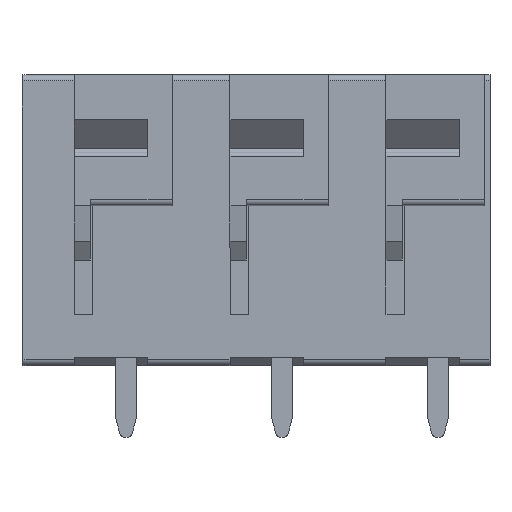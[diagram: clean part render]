
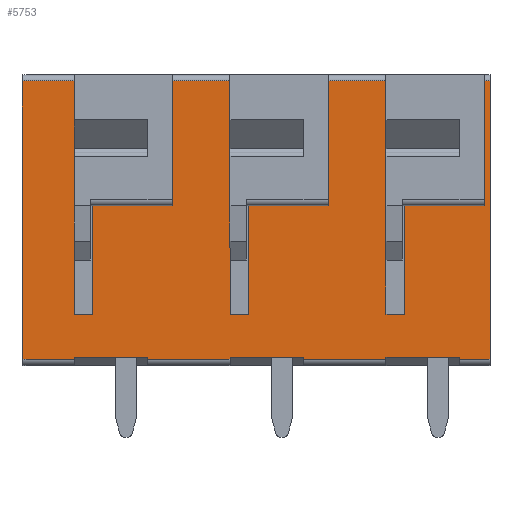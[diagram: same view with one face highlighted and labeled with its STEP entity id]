
A CAD part, left-side view. The second image highlights one B-rep face of the part: STEP entity #5753.
In plain terms, the highlighted planar face has unit normal (-1, 0, 0).
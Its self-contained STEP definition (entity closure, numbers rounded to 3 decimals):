
#62=DIRECTION('',(0.,0.,-1.));
#63=VECTOR('',#62,8.5);
#64=CARTESIAN_POINT('',(0.,-15.94,-3.3));
#65=LINE('',#64,#63);
#100=DIRECTION('',(0.,0.,1.));
#101=VECTOR('',#100,0.1);
#102=CARTESIAN_POINT('',(0.,-15.04,-14.));
#103=LINE('',#102,#101);
#112=DIRECTION('',(0.,0.,1.));
#113=VECTOR('',#112,2.869);
#114=CARTESIAN_POINT('',(0.,-15.04,-11.8));
#115=LINE('',#114,#113);
#294=DIRECTION('',(0.,-1.,0.));
#295=VECTOR('',#294,3.6);
#296=CARTESIAN_POINT('',(0.,-15.04,-13.9));
#297=LINE('',#296,#295);
#302=DIRECTION('',(0.,0.,-1.));
#303=VECTOR('',#302,13.6);
#304=CARTESIAN_POINT('',(0.,-20.12,-0.4));
#305=LINE('',#304,#303);
#306=DIRECTION('',(0.,0.,1.));
#307=VECTOR('',#306,0.1);
#308=CARTESIAN_POINT('',(0.,-18.64,-14.));
#309=LINE('',#308,#307);
#310=DIRECTION('',(0.,0.,1.));
#311=VECTOR('',#310,0.1);
#312=CARTESIAN_POINT('',(0.,-11.02,-14.));
#313=LINE('',#312,#311);
#314=DIRECTION('',(0.,0.,1.));
#315=VECTOR('',#314,0.1);
#316=CARTESIAN_POINT('',(0.,-3.4,-14.));
#317=LINE('',#316,#315);
#318=DIRECTION('',(0.,0.,-1.));
#319=VECTOR('',#318,0.1);
#320=CARTESIAN_POINT('',(0.,0.2,-13.9));
#321=LINE('',#320,#319);
#322=DIRECTION('',(0.,0.,1.));
#323=VECTOR('',#322,13.6);
#324=CARTESIAN_POINT('',(0.,2.74,-14.));
#325=LINE('',#324,#323);
#326=DIRECTION('',(0.,0.,-1.));
#327=VECTOR('',#326,2.869);
#328=CARTESIAN_POINT('',(0.,0.2,-8.931));
#329=LINE('',#328,#327);
#330=DIRECTION('',(0.,0.,-1.));
#331=VECTOR('',#330,0.1);
#332=CARTESIAN_POINT('',(0.,0.2,-3.3));
#333=LINE('',#332,#331);
#334=DIRECTION('',(0.,0.,-1.));
#335=VECTOR('',#334,5.531);
#336=CARTESIAN_POINT('',(0.,-7.42,-3.4));
#337=LINE('',#336,#335);
#338=DIRECTION('',(0.,0.,-1.));
#339=VECTOR('',#338,5.531);
#340=CARTESIAN_POINT('',(0.,-15.04,-3.4));
#341=LINE('',#340,#339);
#346=DIRECTION('',(0.,1.,0.));
#347=VECTOR('',#346,22.86);
#348=CARTESIAN_POINT('',(0.,-20.12,-0.4));
#349=LINE('',#348,#347);
#580=DIRECTION('',(0.,-1.,0.));
#581=VECTOR('',#580,1.48);
#582=CARTESIAN_POINT('',(0.,-18.64,-14.));
#583=LINE('',#582,#581);
#1391=DIRECTION('',(0.,-1.,0.));
#1392=VECTOR('',#1391,3.6);
#1393=CARTESIAN_POINT('',(0.,0.2,-13.9));
#1394=LINE('',#1393,#1392);
#1399=DIRECTION('',(0.,-1.,0.));
#1400=VECTOR('',#1399,4.02);
#1401=CARTESIAN_POINT('',(0.,-3.4,-14.));
#1402=LINE('',#1401,#1400);
#1432=DIRECTION('',(0.,0.,1.));
#1433=VECTOR('',#1432,0.1);
#1434=CARTESIAN_POINT('',(0.,-7.42,-14.));
#1435=LINE('',#1434,#1433);
#1444=DIRECTION('',(0.,0.,1.));
#1445=VECTOR('',#1444,2.869);
#1446=CARTESIAN_POINT('',(0.,-7.42,-11.8));
#1447=LINE('',#1446,#1445);
#1493=DIRECTION('',(0.,-1.,0.));
#1494=VECTOR('',#1493,3.6);
#1495=CARTESIAN_POINT('',(0.,-7.42,-13.9));
#1496=LINE('',#1495,#1494);
#1501=DIRECTION('',(0.,-1.,0.));
#1502=VECTOR('',#1501,4.02);
#1503=CARTESIAN_POINT('',(0.,-11.02,-14.));
#1504=LINE('',#1503,#1502);
#1533=DIRECTION('',(0.,1.,0.));
#1534=VECTOR('',#1533,0.9);
#1535=CARTESIAN_POINT('',(0.,-8.32,-11.8));
#1536=LINE('',#1535,#1534);
#1545=DIRECTION('',(0.,0.,-1.));
#1546=VECTOR('',#1545,8.5);
#1547=CARTESIAN_POINT('',(0.,-8.32,-3.3));
#1548=LINE('',#1547,#1546);
#1574=DIRECTION('',(0.,-1.,0.));
#1575=VECTOR('',#1574,0.9);
#1576=CARTESIAN_POINT('',(0.,-7.42,-3.3));
#1577=LINE('',#1576,#1575);
#1691=DIRECTION('',(0.,0.,1.));
#1692=VECTOR('',#1691,0.1);
#1693=CARTESIAN_POINT('',(0.,-7.42,-3.4));
#1694=LINE('',#1693,#1692);
#1998=DIRECTION('',(0.,-1.,0.));
#1999=VECTOR('',#1998,2.54);
#2000=CARTESIAN_POINT('',(0.,2.74,-14.));
#2001=LINE('',#2000,#1999);
#2014=DIRECTION('',(0.,1.,0.));
#2015=VECTOR('',#2014,0.9);
#2016=CARTESIAN_POINT('',(0.,-0.7,-11.8));
#2017=LINE('',#2016,#2015);
#2022=DIRECTION('',(0.,0.,-1.));
#2023=VECTOR('',#2022,8.5);
#2024=CARTESIAN_POINT('',(0.,-0.7,-3.3));
#2025=LINE('',#2024,#2023);
#2051=DIRECTION('',(0.,-1.,0.));
#2052=VECTOR('',#2051,0.9);
#2053=CARTESIAN_POINT('',(0.,0.2,-3.3));
#2054=LINE('',#2053,#2052);
#2109=DIRECTION('',(0.,0.,1.));
#2110=VECTOR('',#2109,5.531);
#2111=CARTESIAN_POINT('',(0.,0.2,-8.931));
#2112=LINE('',#2111,#2110);
#2805=DIRECTION('',(0.,1.,0.));
#2806=VECTOR('',#2805,0.9);
#2807=CARTESIAN_POINT('',(0.,-15.94,-11.8));
#2808=LINE('',#2807,#2806);
#2829=DIRECTION('',(0.,-1.,0.));
#2830=VECTOR('',#2829,0.9);
#2831=CARTESIAN_POINT('',(0.,-15.04,-3.3));
#2832=LINE('',#2831,#2830);
#2946=DIRECTION('',(0.,0.,1.));
#2947=VECTOR('',#2946,0.1);
#2948=CARTESIAN_POINT('',(0.,-15.04,-3.4));
#2949=LINE('',#2948,#2947);
#3870=CARTESIAN_POINT('',(0.,-20.12,-14.));
#3871=VERTEX_POINT('',#3870);
#3872=CARTESIAN_POINT('',(0.,-20.12,-0.4));
#3873=VERTEX_POINT('',#3872);
#4024=CARTESIAN_POINT('',(0.,-15.04,-13.9));
#4026=VERTEX_POINT('',#4024);
#4028=CARTESIAN_POINT('',(0.,-15.04,-11.8));
#4029=CARTESIAN_POINT('',(0.,-15.04,-8.931));
#4030=VERTEX_POINT('',#4028);
#4031=VERTEX_POINT('',#4029);
#4036=CARTESIAN_POINT('',(0.,-15.04,-14.));
#4037=VERTEX_POINT('',#4036);
#4047=CARTESIAN_POINT('',(0.,-15.04,-3.3));
#4049=VERTEX_POINT('',#4047);
#4052=CARTESIAN_POINT('',(0.,-15.04,-3.4));
#4053=VERTEX_POINT('',#4052);
#4112=CARTESIAN_POINT('',(0.,-15.94,-3.3));
#4113=CARTESIAN_POINT('',(0.,-15.94,-11.8));
#4114=VERTEX_POINT('',#4112);
#4115=VERTEX_POINT('',#4113);
#4172=CARTESIAN_POINT('',(0.,2.74,-0.4));
#4173=VERTEX_POINT('',#4172);
#4174=CARTESIAN_POINT('',(0.,-18.64,-14.));
#4175=VERTEX_POINT('',#4174);
#4176=CARTESIAN_POINT('',(0.,-18.64,-13.9));
#4177=VERTEX_POINT('',#4176);
#4178=CARTESIAN_POINT('',(0.,-11.02,-14.));
#4179=VERTEX_POINT('',#4178);
#4180=CARTESIAN_POINT('',(0.,-11.02,-13.9));
#4181=VERTEX_POINT('',#4180);
#4182=CARTESIAN_POINT('',(0.,-7.42,-13.9));
#4183=VERTEX_POINT('',#4182);
#4184=CARTESIAN_POINT('',(0.,-7.42,-14.));
#4185=VERTEX_POINT('',#4184);
#4186=CARTESIAN_POINT('',(0.,-3.4,-14.));
#4187=VERTEX_POINT('',#4186);
#4188=CARTESIAN_POINT('',(0.,-3.4,-13.9));
#4189=VERTEX_POINT('',#4188);
#4190=CARTESIAN_POINT('',(0.,0.2,-13.9));
#4191=VERTEX_POINT('',#4190);
#4192=CARTESIAN_POINT('',(0.,0.2,-14.));
#4193=VERTEX_POINT('',#4192);
#4194=CARTESIAN_POINT('',(0.,2.74,-14.));
#4195=VERTEX_POINT('',#4194);
#4196=CARTESIAN_POINT('',(0.,0.2,-8.931));
#4197=CARTESIAN_POINT('',(0.,0.2,-11.8));
#4198=VERTEX_POINT('',#4196);
#4199=VERTEX_POINT('',#4197);
#4200=CARTESIAN_POINT('',(0.,-0.7,-11.8));
#4201=VERTEX_POINT('',#4200);
#4202=CARTESIAN_POINT('',(0.,-0.7,-3.3));
#4203=VERTEX_POINT('',#4202);
#4204=CARTESIAN_POINT('',(0.,0.2,-3.3));
#4205=VERTEX_POINT('',#4204);
#4206=CARTESIAN_POINT('',(0.,0.2,-3.4));
#4207=VERTEX_POINT('',#4206);
#4208=CARTESIAN_POINT('',(0.,-7.42,-11.8));
#4209=CARTESIAN_POINT('',(0.,-7.42,-8.931));
#4210=VERTEX_POINT('',#4208);
#4211=VERTEX_POINT('',#4209);
#4212=CARTESIAN_POINT('',(0.,-8.32,-11.8));
#4213=VERTEX_POINT('',#4212);
#4214=CARTESIAN_POINT('',(0.,-8.32,-3.3));
#4215=VERTEX_POINT('',#4214);
#4216=CARTESIAN_POINT('',(0.,-7.42,-3.3));
#4217=VERTEX_POINT('',#4216);
#4218=CARTESIAN_POINT('',(0.,-7.42,-3.4));
#4219=VERTEX_POINT('',#4218);
#5677=CARTESIAN_POINT('',(0.,0.2,-14.3));
#5678=DIRECTION('',(-1.,0.,0.));
#5679=DIRECTION('',(0.,0.,1.));
#5680=AXIS2_PLACEMENT_3D('',#5677,#5678,#5679);
#5681=PLANE('',#5680);
#5683=ORIENTED_EDGE('',*,*,#5682,.F.);
#5685=ORIENTED_EDGE('',*,*,#5684,.T.);
#5687=ORIENTED_EDGE('',*,*,#5686,.F.);
#5688=ORIENTED_EDGE('',*,*,#5640,.T.);
#5689=ORIENTED_EDGE('',*,*,#5670,.F.);
#5690=ORIENTED_EDGE('',*,*,#5242,.F.);
#5692=ORIENTED_EDGE('',*,*,#5691,.F.);
#5694=ORIENTED_EDGE('',*,*,#5693,.T.);
#5696=ORIENTED_EDGE('',*,*,#5695,.F.);
#5698=ORIENTED_EDGE('',*,*,#5697,.F.);
#5700=ORIENTED_EDGE('',*,*,#5699,.F.);
#5702=ORIENTED_EDGE('',*,*,#5701,.T.);
#5704=ORIENTED_EDGE('',*,*,#5703,.F.);
#5706=ORIENTED_EDGE('',*,*,#5705,.T.);
#5708=ORIENTED_EDGE('',*,*,#5707,.F.);
#5710=ORIENTED_EDGE('',*,*,#5709,.T.);
#5711=EDGE_LOOP('',(#5683,#5685,#5687,#5688,#5689,#5690,#5692,#5694,#5696,#5698,
#5700,#5702,#5704,#5706,#5708,#5710));
#5712=FACE_OUTER_BOUND('',#5711,.F.);
#5714=ORIENTED_EDGE('',*,*,#5713,.T.);
#5716=ORIENTED_EDGE('',*,*,#5715,.F.);
#5718=ORIENTED_EDGE('',*,*,#5717,.F.);
#5720=ORIENTED_EDGE('',*,*,#5719,.F.);
#5722=ORIENTED_EDGE('',*,*,#5721,.T.);
#5724=ORIENTED_EDGE('',*,*,#5723,.F.);
#5725=EDGE_LOOP('',(#5714,#5716,#5718,#5720,#5722,#5724));
#5726=FACE_BOUND('',#5725,.F.);
#5728=ORIENTED_EDGE('',*,*,#5727,.F.);
#5730=ORIENTED_EDGE('',*,*,#5729,.F.);
#5732=ORIENTED_EDGE('',*,*,#5731,.F.);
#5734=ORIENTED_EDGE('',*,*,#5733,.F.);
#5736=ORIENTED_EDGE('',*,*,#5735,.F.);
#5738=ORIENTED_EDGE('',*,*,#5737,.T.);
#5739=EDGE_LOOP('',(#5728,#5730,#5732,#5734,#5736,#5738));
#5740=FACE_BOUND('',#5739,.F.);
#5741=ORIENTED_EDGE('',*,*,#5259,.F.);
#5743=ORIENTED_EDGE('',*,*,#5742,.F.);
#5744=ORIENTED_EDGE('',*,*,#5142,.F.);
#5746=ORIENTED_EDGE('',*,*,#5745,.F.);
#5748=ORIENTED_EDGE('',*,*,#5747,.F.);
#5750=ORIENTED_EDGE('',*,*,#5749,.T.);
#5751=EDGE_LOOP('',(#5741,#5743,#5744,#5746,#5748,#5750));
#5752=FACE_BOUND('',#5751,.F.);
#5753=ADVANCED_FACE('',(#5712,#5726,#5740,#5752),#5681,.T.);
#5142=EDGE_CURVE('',#4114,#4115,#65,.T.);
#5242=EDGE_CURVE('',#4037,#4026,#103,.T.);
#5259=EDGE_CURVE('',#4030,#4031,#115,.T.);
#5640=EDGE_CURVE('',#4175,#4177,#309,.T.);
#5670=EDGE_CURVE('',#4026,#4177,#297,.T.);
#5682=EDGE_CURVE('',#3873,#4173,#349,.T.);
#5684=EDGE_CURVE('',#3873,#3871,#305,.T.);
#5686=EDGE_CURVE('',#4175,#3871,#583,.T.);
#5691=EDGE_CURVE('',#4179,#4037,#1504,.T.);
#5693=EDGE_CURVE('',#4179,#4181,#313,.T.);
#5695=EDGE_CURVE('',#4183,#4181,#1496,.T.);
#5697=EDGE_CURVE('',#4185,#4183,#1435,.T.);
#5699=EDGE_CURVE('',#4187,#4185,#1402,.T.);
#5701=EDGE_CURVE('',#4187,#4189,#317,.T.);
#5703=EDGE_CURVE('',#4191,#4189,#1394,.T.);
#5705=EDGE_CURVE('',#4191,#4193,#321,.T.);
#5707=EDGE_CURVE('',#4195,#4193,#2001,.T.);
#5709=EDGE_CURVE('',#4195,#4173,#325,.T.);
#5713=EDGE_CURVE('',#4198,#4199,#329,.T.);
#5715=EDGE_CURVE('',#4201,#4199,#2017,.T.);
#5717=EDGE_CURVE('',#4203,#4201,#2025,.T.);
#5719=EDGE_CURVE('',#4205,#4203,#2054,.T.);
#5721=EDGE_CURVE('',#4205,#4207,#333,.T.);
#5723=EDGE_CURVE('',#4198,#4207,#2112,.T.);
#5727=EDGE_CURVE('',#4210,#4211,#1447,.T.);
#5729=EDGE_CURVE('',#4213,#4210,#1536,.T.);
#5731=EDGE_CURVE('',#4215,#4213,#1548,.T.);
#5733=EDGE_CURVE('',#4217,#4215,#1577,.T.);
#5735=EDGE_CURVE('',#4219,#4217,#1694,.T.);
#5737=EDGE_CURVE('',#4219,#4211,#337,.T.);
#5742=EDGE_CURVE('',#4115,#4030,#2808,.T.);
#5745=EDGE_CURVE('',#4049,#4114,#2832,.T.);
#5747=EDGE_CURVE('',#4053,#4049,#2949,.T.);
#5749=EDGE_CURVE('',#4053,#4031,#341,.T.);
